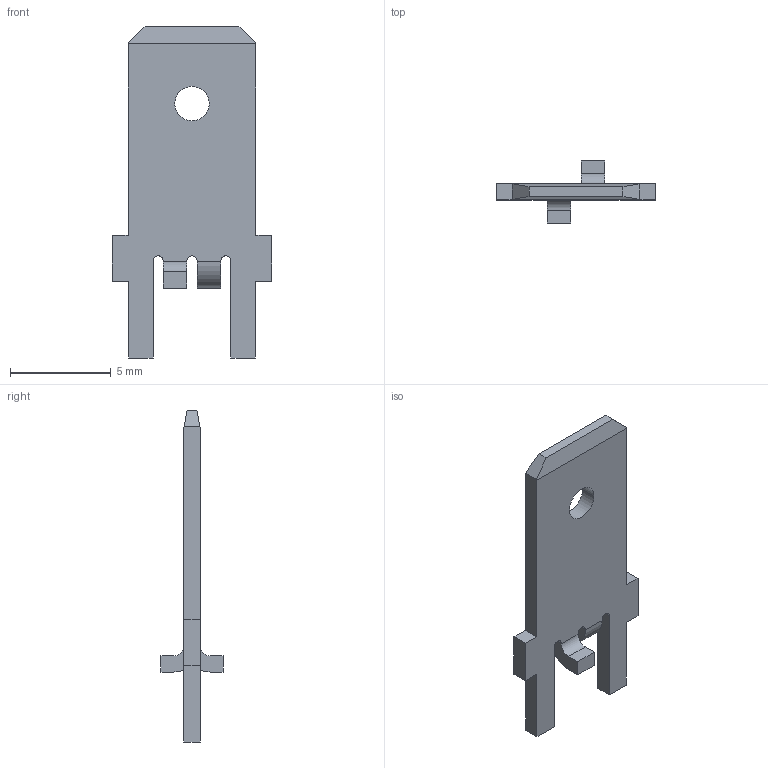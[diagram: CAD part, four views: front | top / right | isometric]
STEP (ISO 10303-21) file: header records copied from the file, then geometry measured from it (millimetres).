
FILE_DESCRIPTION((''),'2;1');
FILE_NAME('C-1217126-1','2014-01-21T',('workeradm'),('Tyco Electronics Ltd.'),'PRO/ENGINEER BY PARAMETRIC TECHNOLOGY CORPORATION, 2013050','PRO/ENGINEER BY PARAMETRIC TECHNOLOGY CORPORATION, 2013050','');
FILE_SCHEMA(('AUTOMOTIVE_DESIGN { 1 0 10303 214 1 1 1 1 }'));
Length unit declared in the file: millimetre
Products named in the file (1): C-1217126-1
Bounding box: 7.92 x 3.09 x 16.51 mm (x, y, z)
Volume: 72.2 mm3; surface area: 238.3 mm2
Topology: 1 solids, 1 shells, 40 faces, 114 edges, 76 vertices
Faces by surface type: plane 31, cylinder 9
Entity records: 1476 total; most frequent: CARTESIAN_POINT 232, ORIENTED_EDGE 228, DIRECTION 212, COLOUR_RGB 126, EDGE_CURVE 114, VECTOR 96, LINE 96, VERTEX_POINT 76
